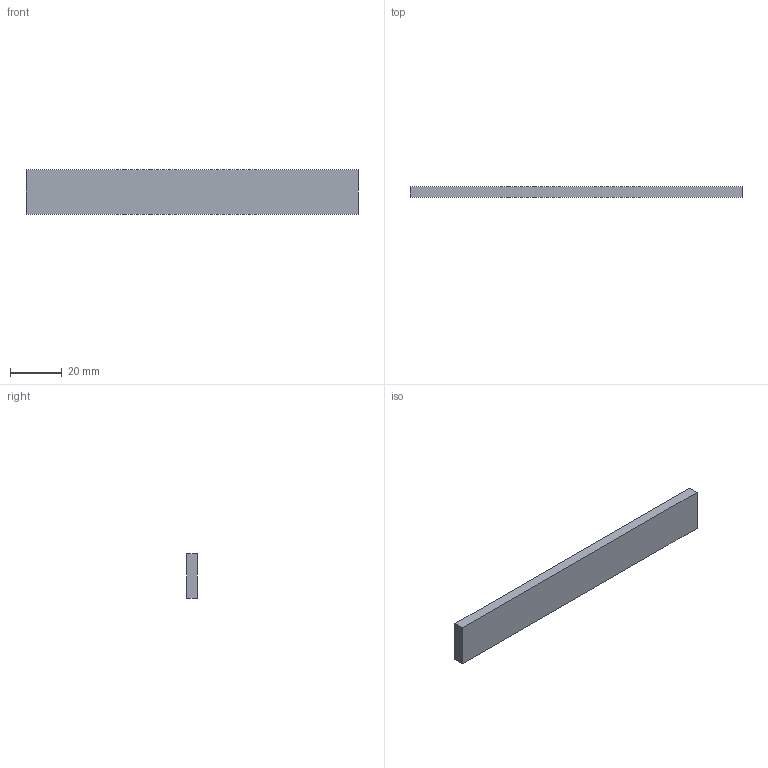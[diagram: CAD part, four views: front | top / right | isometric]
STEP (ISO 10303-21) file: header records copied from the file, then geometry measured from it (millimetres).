
FILE_DESCRIPTION(('Open CASCADE Model'),'2;1');
FILE_NAME('Open CASCADE Shape Model','2026-10-04T02:31:48',('Author'),( 'Open CASCADE'),'Open CASCADE STEP processor 8.0','Open CASCADE 8.0' ,'Unknown');
FILE_SCHEMA(('AUTOMOTIVE_DESIGN { 1 0 10303 214 1 1 1 1 }'));
Length unit declared in the file: millimetre
Products named in the file (1): Open CASCADE STEP translator 8.0 418
Bounding box: 128 x 4 x 17 mm (x, y, z)
Volume: 8704 mm3; surface area: 5512 mm2
Topology: 1 solids, 1 shells, 6 faces, 12 edges, 8 vertices
Faces by surface type: plane 6
Entity records: 322 total; most frequent: CARTESIAN_POINT 51, DIRECTION 50, LINE 36, VECTOR 36, ORIENTED_EDGE 24, PCURVE 24, DEFINITIONAL_REPRESENTATION 24, EDGE_CURVE 12
